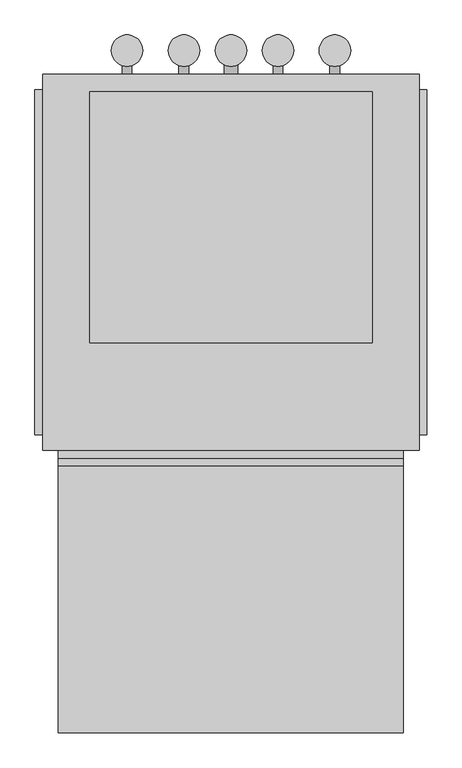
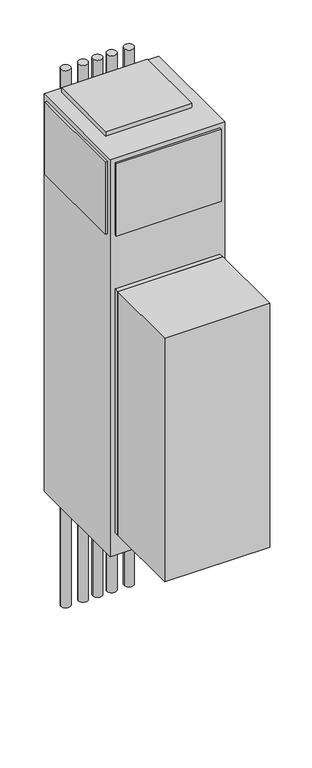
"""IFC4 building model written with IfcOpenShell, lengths in millimetres: proxy geometry, Concealed_Universal_Modular_Fan_Coil_Unit_-_MUY_-_IEC_-_4-Pipe_-_WithRisers_2022 : Size 12 - 277v/60Hz/1Ph - 4/1 Coil."""

from ifc_helpers import new_model, si_unit, point, frame, frame_2d, origin, origin_with_axes, place, context, project, spatial, polyline, circle_curve, trimmed, segment, composite_curve, outline, extrude, source, transform, mapped, element, save


def mechanical_equipment_33ecd553(model_context):
    return source(origin(), model_context, "Body", "SweptSolid", [
        extrude(outline(polyline([(1356.1480703, 341.3868862), (1346.2, 373.5602728), (1488.3709244, 373.5602728), (1465.3489183, 341.3868862), (1356.1480703, 341.3868862)])), frame((0.0, -393.7, 0.0), z_axis=(0.0, 1.0, 0.0), x_axis=(0.0, 0.0, 1.0)), (0.0, 0.0, 1.0), 3.175),
        extrude(outline(polyline([(1435.1473557, 380.3186058), (1431.9449632, 406.4), (1461.1738042, 406.4), (1469.2382193, 380.3186058), (1435.1473557, 380.3186058)])), frame((0.0, -393.7, 0.0), z_axis=(0.0, 1.0, 0.0), x_axis=(0.0, 0.0, 1.0)), (0.0, 0.0, 1.0), 3.175),
        extrude(outline(polyline([(1383.2838288, 406.4), (1379.6183279, 380.3186058), (1346.2, 380.3186058), (1354.8342372, 406.4), (1383.2838288, 406.4)])), frame((0.0, -393.7, 0.0), z_axis=(0.0, 1.0, 0.0), x_axis=(0.0, 0.0, 1.0)), (0.0, 0.0, 1.0), 3.175),
        extrude(outline(polyline([(1422.5989903, 406.4), (1424.8808166, 380.3186058), (1388.9432681, 380.3186058), (1391.6845331, 406.4), (1422.5989903, 406.4)])), frame((0.0, -393.7, 0.0), z_axis=(0.0, 1.0, 0.0), x_axis=(0.0, 0.0, 1.0)), (0.0, 0.0, 1.0), 3.175),
        extrude(outline(composite_curve([segment(trimmed(circle_curve(frame_2d((288.925, 282.575)), 25.4), [point((263.525, 282.575))], [point((314.325, 282.575))], False, "CARTESIAN"), True, "CONTINUOUS"), segment(trimmed(circle_curve(frame_2d((288.925, 282.575)), 25.4), [point((314.325, 282.575))], [point((263.525, 282.575))], False, "CARTESIAN"), True, "CONTINUOUS")], self_intersect=False)), frame((0.0, 0.0, -711.2), z_axis=(0.0, 0.0, 1.0), x_axis=(1.0, 0.0, 0.0)), (0.0, 0.0, 1.0), 3022.6),
        extrude(outline(composite_curve([segment(trimmed(circle_curve(frame_2d((381.0, 282.575)), 25.4), [point((355.6, 282.575))], [point((406.4, 282.575))], False, "CARTESIAN"), True, "CONTINUOUS"), segment(trimmed(circle_curve(frame_2d((381.0, 282.575)), 25.4), [point((406.4, 282.575))], [point((355.6, 282.575))], False, "CARTESIAN"), True, "CONTINUOUS")], self_intersect=False)), frame((0.0, 0.0, -711.2), z_axis=(0.0, 0.0, 1.0), x_axis=(1.0, 0.0, 0.0)), (0.0, 0.0, 1.0), 3022.6),
        extrude(outline(composite_curve([segment(trimmed(circle_curve(frame_2d((457.2, 282.575)), 25.4), [point((431.8, 282.575))], [point((482.6, 282.575))], False, "CARTESIAN"), True, "CONTINUOUS"), segment(trimmed(circle_curve(frame_2d((457.2, 282.575)), 25.4), [point((482.6, 282.575))], [point((431.8, 282.575))], False, "CARTESIAN"), True, "CONTINUOUS")], self_intersect=False)), frame((0.0, 0.0, -711.2), z_axis=(0.0, 0.0, 1.0), x_axis=(1.0, 0.0, 0.0)), (0.0, 0.0, 1.0), 3022.6),
        extrude(outline(composite_curve([segment(trimmed(circle_curve(frame_2d((533.4, 282.575)), 25.4), [point((508.0, 282.575))], [point((558.8, 282.575))], False, "CARTESIAN"), True, "CONTINUOUS"), segment(trimmed(circle_curve(frame_2d((533.4, 282.575)), 25.4), [point((558.8, 282.575))], [point((508.0, 282.575))], False, "CARTESIAN"), True, "CONTINUOUS")], self_intersect=False)), frame((0.0, 0.0, -711.2), z_axis=(0.0, 0.0, 1.0), x_axis=(1.0, 0.0, 0.0)), (0.0, 0.0, 1.0), 3022.6),
        extrude(outline(composite_curve([segment(trimmed(circle_curve(frame_2d((625.475, 282.575)), 25.4), [point((600.075, 282.575))], [point((650.875, 282.575))], False, "CARTESIAN"), True, "CONTINUOUS"), segment(trimmed(circle_curve(frame_2d((625.475, 282.575)), 25.4), [point((650.875, 282.575))], [point((600.075, 282.575))], False, "CARTESIAN"), True, "CONTINUOUS")], self_intersect=False)), frame((0.0, 0.0, -711.2), z_axis=(0.0, 0.0, 1.0), x_axis=(1.0, 0.0, 0.0)), (0.0, 0.0, 1.0), 3022.6),
        extrude(outline(polyline([(736.6, -390.525), (736.6, -822.325), (177.8, -822.325), (177.8, -390.525), (736.6, -390.525)])), frame((0.0, 0.0, 127.0), z_axis=(0.0, 0.0, 1.0), x_axis=(1.0, 0.0, 0.0)), (0.0, 0.0, 1.0), 1371.6),
        extrude(outline(composite_curve([segment(trimmed(circle_curve(frame_2d((990.6, 625.475)), 7.9375), [point((990.6, 617.5375))], [point((990.6, 633.4125))], False, "CARTESIAN"), True, "CONTINUOUS"), segment(trimmed(circle_curve(frame_2d((990.6, 625.475)), 7.9375), [point((990.6, 633.4125))], [point((990.6, 617.5375))], False, "CARTESIAN"), True, "CONTINUOUS")], self_intersect=False)), frame((0.0, 244.475, 0.0), z_axis=(0.0, 1.0, 0.0), x_axis=(0.0, 0.0, 1.0)), (0.0, 0.0, 1.0), 50.8),
        extrude(outline(composite_curve([segment(trimmed(circle_curve(frame_2d((990.6, 533.4)), 7.9375), [point((990.6, 525.4625))], [point((990.6, 541.3375))], False, "CARTESIAN"), True, "CONTINUOUS"), segment(trimmed(circle_curve(frame_2d((990.6, 533.4)), 7.9375), [point((990.6, 541.3375))], [point((990.6, 525.4625))], False, "CARTESIAN"), True, "CONTINUOUS")], self_intersect=False)), frame((0.0, 244.475, 0.0), z_axis=(0.0, 1.0, 0.0), x_axis=(0.0, 0.0, 1.0)), (0.0, 0.0, 1.0), 50.8),
        extrude(outline(composite_curve([segment(trimmed(circle_curve(frame_2d((990.6, 381.0)), 7.9375), [point((990.6, 373.0625))], [point((990.6, 388.9375))], False, "CARTESIAN"), True, "CONTINUOUS"), segment(trimmed(circle_curve(frame_2d((990.6, 381.0)), 7.9375), [point((990.6, 388.9375))], [point((990.6, 373.0625))], False, "CARTESIAN"), True, "CONTINUOUS")], self_intersect=False)), frame((0.0, 244.475, 0.0), z_axis=(0.0, 1.0, 0.0), x_axis=(0.0, 0.0, 1.0)), (0.0, 0.0, 1.0), 50.8),
        extrude(outline(composite_curve([segment(trimmed(circle_curve(frame_2d((990.6, 288.925)), 7.9375), [point((990.6, 280.9875))], [point((990.6, 296.8625))], False, "CARTESIAN"), True, "CONTINUOUS"), segment(trimmed(circle_curve(frame_2d((990.6, 288.925)), 7.9375), [point((990.6, 296.8625))], [point((990.6, 280.9875))], False, "CARTESIAN"), True, "CONTINUOUS")], self_intersect=False)), frame((0.0, 244.475, 0.0), z_axis=(0.0, 1.0, 0.0), x_axis=(0.0, 0.0, 1.0)), (0.0, 0.0, 1.0), 50.8),
        extrude(outline(composite_curve([segment(trimmed(circle_curve(frame_2d((76.2, 457.2)), 11.1125), [point((76.2, 446.0875))], [point((76.2, 468.3125))], False, "CARTESIAN"), True, "CONTINUOUS"), segment(trimmed(circle_curve(frame_2d((76.2, 457.2)), 11.1125), [point((76.2, 468.3125))], [point((76.2, 446.0875))], False, "CARTESIAN"), True, "CONTINUOUS")], self_intersect=False)), frame((0.0, 244.475, 0.0), z_axis=(0.0, 1.0, 0.0), x_axis=(0.0, 0.0, 1.0)), (0.0, 0.0, 1.0), 50.8),
        extrude(outline(polyline([(685.8, 215.9), (685.8, -190.5), (228.6, -190.5), (228.6, 215.9), (685.8, 215.9)])), frame((0.0, 0.0, 2235.2), z_axis=(0.0, 0.0, 1.0), x_axis=(1.0, 0.0, 0.0)), (0.0, 0.0, 1.0), 25.4),
        extrude(outline(polyline([(139.7, -339.725), (139.7, 219.075), (152.4, 219.075), (152.4, -339.725), (139.7, -339.725)])), frame((0.0, 0.0, 1803.4), z_axis=(0.0, 0.0, 1.0), x_axis=(1.0, 0.0, 0.0)), (0.0, 0.0, 1.0), 406.4),
        extrude(outline(polyline([(774.7, 219.075), (774.7, -339.725), (762.0, -339.725), (762.0, 219.075), (774.7, 219.075)])), frame((0.0, 0.0, 1803.4), z_axis=(0.0, 0.0, 1.0), x_axis=(1.0, 0.0, 0.0)), (0.0, 0.0, 1.0), 406.4),
        extrude(outline(polyline([(736.6, -377.825), (177.8, -377.825), (177.8, -365.125), (736.6, -365.125), (736.6, -377.825)])), frame((0.0, 0.0, 1803.4), z_axis=(0.0, 0.0, 1.0), x_axis=(1.0, 0.0, 0.0)), (0.0, 0.0, 1.0), 406.4),
        extrude(outline(polyline([(736.6, -390.525), (177.8, -390.525), (177.8, -365.125), (736.6, -365.125), (736.6, -390.525)])), frame((0.0, 0.0, 127.0), z_axis=(0.0, 0.0, 1.0), x_axis=(1.0, 0.0, 0.0)), (0.0, 0.0, 1.0), 1371.6),
        extrude(outline(polyline([(762.0, 244.475), (762.0, -365.125), (152.4, -365.125), (152.4, 244.475), (762.0, 244.475)])), origin_with_axes(), (0.0, 0.0, 1.0), 2235.2),
    ])


if __name__ == "__main__":
    model = new_model("IFC4")
    model_context = context("Model", 3, world=origin())
    ifc_project = project(units=[si_unit("LENGTHUNIT", "METRE", prefix="MILLI")], contexts=[model_context])
    site = spatial("IfcSite", under=ifc_project)
    building = spatial("IfcBuilding", under=site)
    placement = place(None, origin())
    mechanical_equipment_shape = mechanical_equipment_33ecd553(model_context)
    element("IfcBuildingElementProxy", 1, Name="Concealed_Universal_Modular_Fan_Coil_Unit_-_MUY_-_IEC_-_4-Pipe_-_WithRisers_2022 : Size 12 - 277v/60Hz/1Ph - 4/1 Coil", ObjectType="Concealed_Universal_Modular_Fan_Coil_Unit_-_MUY_-_IEC_-_4-Pipe_-_WithRisers_2022 : Size 12 - 277v/60Hz/1Ph - 4/1 Coil", at=placement, inside=building, context=model_context, shape_type="MappedRepresentation", body=[
        mapped(mechanical_equipment_shape, transform((0.0, 0.0, 0.0), x_axis=(1.0, 0.0, 0.0), y_axis=(0.0, 1.0, 0.0), z_axis=(0.0, 0.0, 1.0))),
    ])
    save(model, "model.ifc")
